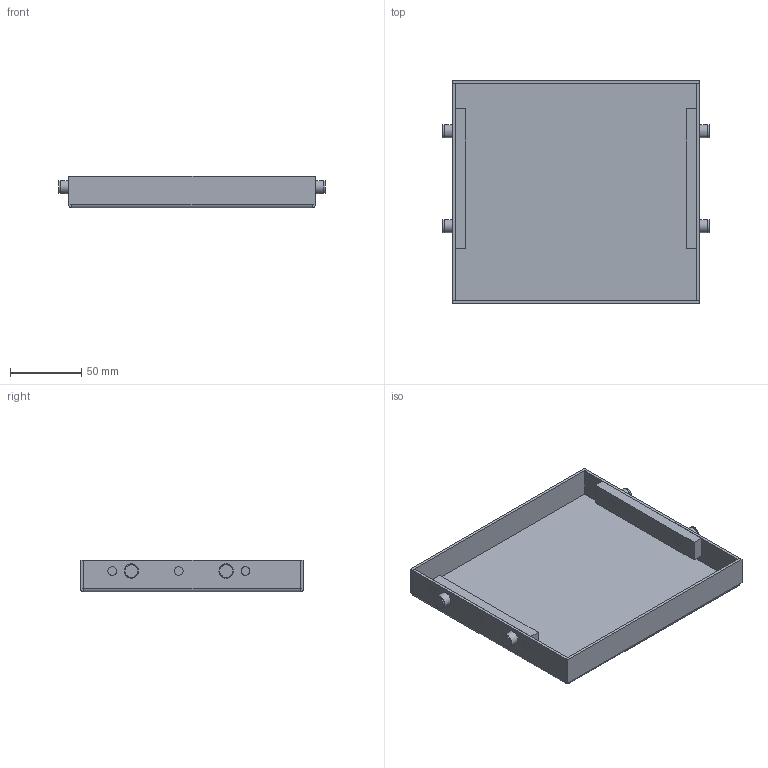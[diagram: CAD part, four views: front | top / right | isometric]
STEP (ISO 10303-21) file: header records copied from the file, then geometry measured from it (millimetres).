
FILE_DESCRIPTION((''),'2;1');
FILE_NAME('C:\old_Drawings\shrinkwrapped website .stp files\561361-STP.stp','2011-05-23T14:18:22',('GaryRobinson'),(''),'Autodesk Inventor 2011','Autodesk Inventor 2011','');
FILE_SCHEMA(('CONFIG_CONTROL_DESIGN'));
Length unit declared in the file: inch
Products named in the file (1): 561361-STP
Bounding box: 187.54 x 156.84 x 22.23 mm (x, y, z)
Surface area: 94684.9 mm2 (no closed solid volume)
Topology: 0 solids, 17 shells, 140 faces, 252 edges, 154 vertices
Faces by surface type: plane 78, cylinder 34, cone 28
Full cylindrical faces by diameter (mm): 2.845 x6, 6.353 x4, 6.985 x4, 9 x4, 9.144 x4, 10.084 x4
Entity records: 3317 total; most frequent: DIRECTION 574, CARTESIAN_POINT 489, ORIENTED_EDGE 392, AXIS2_PLACEMENT_3D 237, EDGE_LOOP 210, EDGE_CURVE 196, VERTEX_POINT 152, FACE_OUTER_BOUND 140
